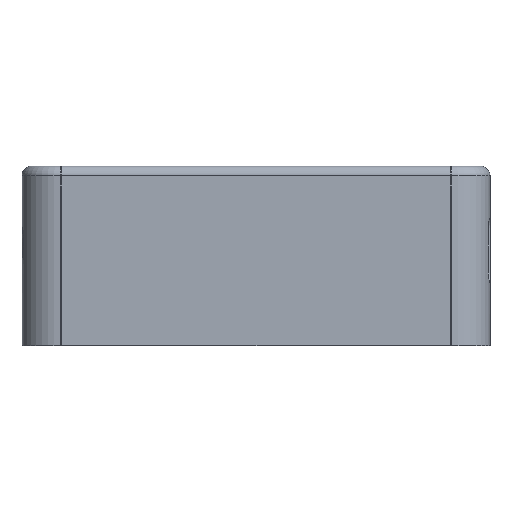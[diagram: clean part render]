
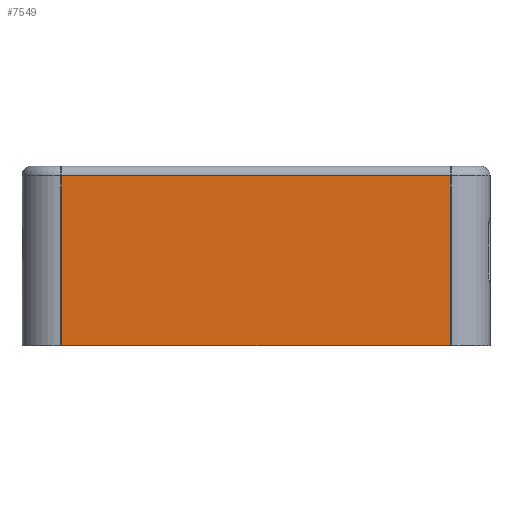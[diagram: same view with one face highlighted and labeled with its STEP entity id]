
A CAD part, left-side view. The second image highlights one B-rep face of the part: STEP entity #7549.
In plain terms, the highlighted planar face has unit normal (-1, 0, 0).
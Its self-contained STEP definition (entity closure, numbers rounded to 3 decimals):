
#414=PLANE('',#8261);
#584=LINE('',#12101,#1075);
#605=LINE('',#12295,#1096);
#606=LINE('',#12299,#1097);
#607=LINE('',#12300,#1098);
#1075=VECTOR('',#9565,10.);
#1096=VECTOR('',#9700,10.);
#1097=VECTOR('',#9705,10.);
#1098=VECTOR('',#9706,10.);
#1781=FACE_OUTER_BOUND('',#2359,.T.);
#2359=EDGE_LOOP('',(#5788,#5789,#5790,#5791));
#3662=VERTEX_POINT('',#12095);
#3663=VERTEX_POINT('',#12099);
#3703=VERTEX_POINT('',#12294);
#3704=VERTEX_POINT('',#12298);
#4428=EDGE_CURVE('',#3662,#3663,#584,.T.);
#4491=EDGE_CURVE('',#3663,#3703,#605,.T.);
#4493=EDGE_CURVE('',#3662,#3704,#606,.T.);
#4494=EDGE_CURVE('',#3703,#3704,#607,.T.);
#5788=ORIENTED_EDGE('',*,*,#4428,.F.);
#5789=ORIENTED_EDGE('',*,*,#4493,.T.);
#5790=ORIENTED_EDGE('',*,*,#4494,.F.);
#5791=ORIENTED_EDGE('',*,*,#4491,.F.);
#7549=ADVANCED_FACE('',(#1781),#414,.T.);
#8261=AXIS2_PLACEMENT_3D('',#12297,#9703,#9704);
#9565=DIRECTION('',(0.,-1.,0.));
#9700=DIRECTION('',(0.,0.,-1.));
#9703=DIRECTION('center_axis',(-1.,0.,0.));
#9704=DIRECTION('ref_axis',(0.,1.,0.));
#9705=DIRECTION('',(0.,0.,-1.));
#9706=DIRECTION('',(0.,1.,0.));
#12095=CARTESIAN_POINT('',(-5.,-3.05,-2.));
#12099=CARTESIAN_POINT('',(-5.,-81.95,-2.));
#12101=CARTESIAN_POINT('',(-5.,-62.225,-2.));
#12294=CARTESIAN_POINT('',(-5.,-81.95,-36.5));
#12295=CARTESIAN_POINT('',(-5.,-81.95,0.));
#12297=CARTESIAN_POINT('Origin',(-5.,-81.95,0.));
#12298=CARTESIAN_POINT('',(-5.,-3.05,-36.5));
#12299=CARTESIAN_POINT('',(-5.,-3.05,0.));
#12300=CARTESIAN_POINT('',(-5.,-3.05,-36.5));
